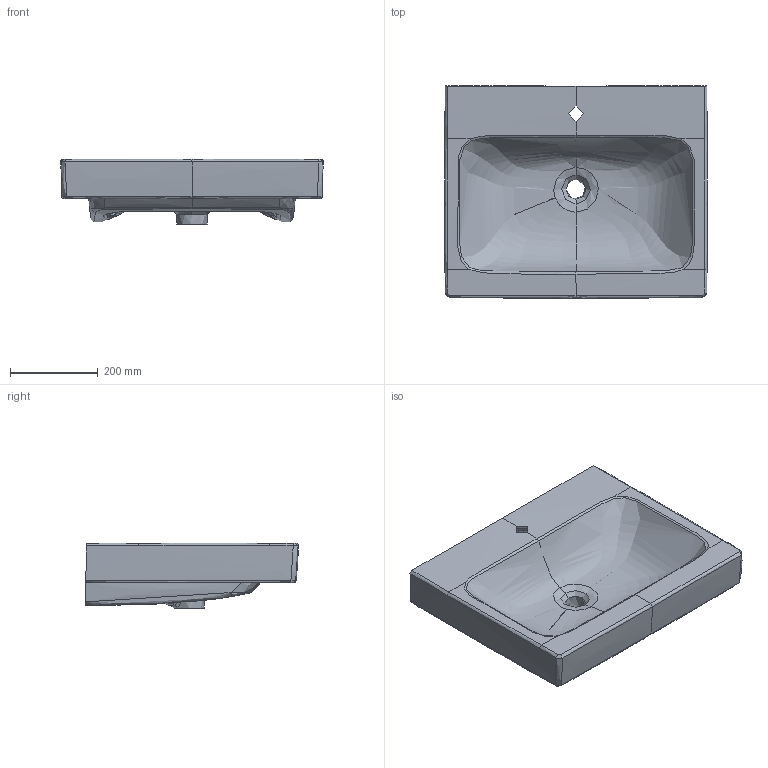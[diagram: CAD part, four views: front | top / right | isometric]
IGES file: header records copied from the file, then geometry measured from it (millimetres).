
Global section: file name: 124060000; native system: Autodesk Inventor 2018; preprocessor: unknown; author: JANAN; date: 20200402.161804; units: millimetre
Bounding box: 599.57 x 486.92 x 150.34 mm (x, y, z)
Volume: 14907909.3 mm3; surface area: 991513.1 mm2
Topology: 1 solids, 1 shells, 292 faces, 728 edges, 439 vertices
Faces by surface type: bspline 292
